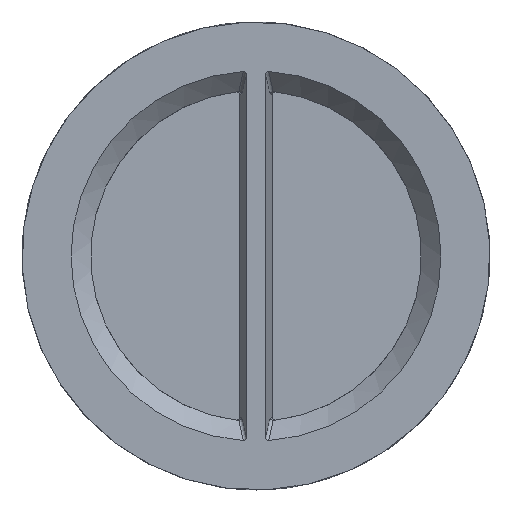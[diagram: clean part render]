
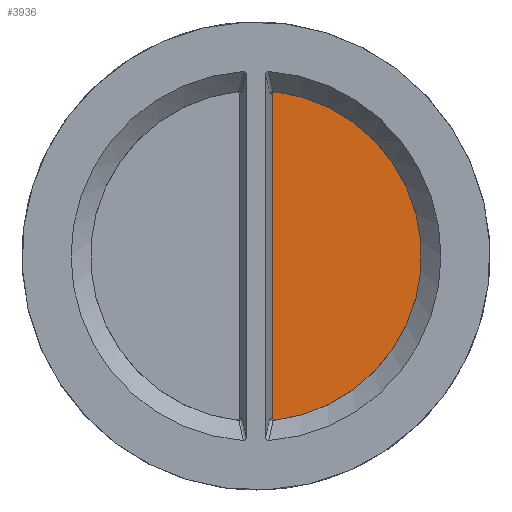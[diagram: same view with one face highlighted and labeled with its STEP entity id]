
A CAD part, front view. The second image highlights one B-rep face of the part: STEP entity #3936.
In plain terms, the highlighted planar face has unit normal (0, -1, 0) as drawn and (0, 0, 1) by its records, which use the part's own axes.
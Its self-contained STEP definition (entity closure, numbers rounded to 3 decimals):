
#3936=ADVANCED_FACE('',(#7635),#7637,.T.);
#7635=FACE_BOUND('',#7636,.T.);
#7636=EDGE_LOOP('',(#20607,#20608));
#7637=PLANE('',#7638);
#7638=AXIS2_PLACEMENT_3D('',#7639,#7640,#7641);
#7639=CARTESIAN_POINT('',(0.,0.,12.55));
#7640=DIRECTION('',(0.,0.,1.));
#7641=DIRECTION('',(-1.,0.,0.));
#20607=ORIENTED_EDGE('',*,*,#21800,.T.);
#20608=ORIENTED_EDGE('',*,*,#21826,.T.);
#21800=EDGE_CURVE('',#23658,#23656,#23659,.T.);
#21826=EDGE_CURVE('',#23656,#23658,#23702,.T.);
#23656=VERTEX_POINT('',#38977);
#23658=VERTEX_POINT('',#38981);
#23659=CIRCLE('',#38982,151.5);
#23702=LINE('',#39245,#39246);
#38977=CARTESIAN_POINT('',(151.316,-7.467,12.55));
#38981=CARTESIAN_POINT('',(-151.316,-7.467,12.55));
#38982=AXIS2_PLACEMENT_3D('',#38983,#38984,#38985);
#38983=CARTESIAN_POINT('',(0.,0.,12.55));
#38984=DIRECTION('',(0.,0.,1.));
#38985=DIRECTION('',(-0.999,-0.049,0.));
#39245=CARTESIAN_POINT('',(151.316,-7.467,12.55));
#39246=VECTOR('',#39247,1.);
#39247=DIRECTION('',(-1.,0.,0.));
